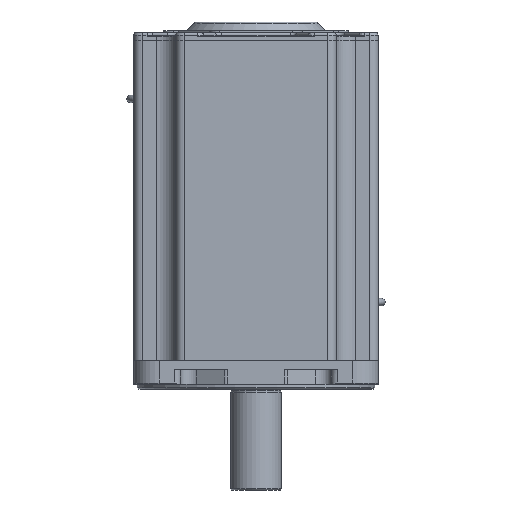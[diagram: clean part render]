
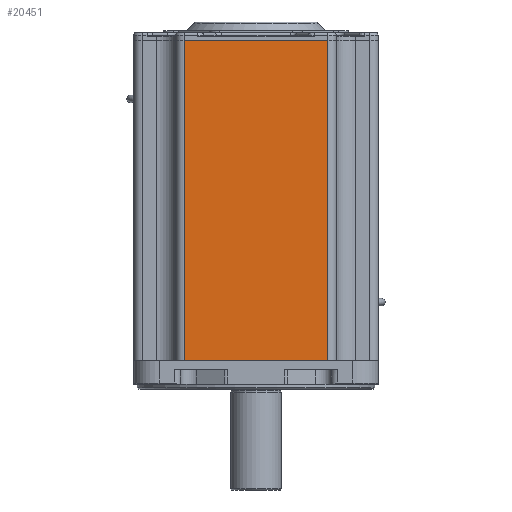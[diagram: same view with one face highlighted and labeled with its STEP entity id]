
A CAD part, front view. The second image highlights one B-rep face of the part: STEP entity #20451.
In plain terms, the highlighted planar face has unit normal (0, -1, 0).
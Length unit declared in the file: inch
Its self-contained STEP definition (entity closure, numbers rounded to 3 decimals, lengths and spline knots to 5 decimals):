
#5605=CARTESIAN_POINT('',(2.14,-3.64,9.91));
#5606=VERTEX_POINT('',#5605);
#5818=CARTESIAN_POINT('',(-2.14,-3.64,9.91));
#5819=VERTEX_POINT('',#5818);
#5826=CARTESIAN_POINT('',(-2.14,-3.64,9.91));
#5827=DIRECTION('',(1.0,0.0,0.0));
#5828=VECTOR('',#5827,4.28);
#5829=LINE('',#5826,#5828);
#5830=EDGE_CURVE('',#5819,#5606,#5829,.T.);
#7876=CARTESIAN_POINT('',(-2.14,-3.64,0.35));
#7877=VERTEX_POINT('',#7876);
#7885=CARTESIAN_POINT('',(-2.14,-3.64,0.35));
#7886=DIRECTION('',(0.0,0.0,1.0));
#7887=VECTOR('',#7886,9.56);
#7888=LINE('',#7885,#7887);
#7889=EDGE_CURVE('',#7877,#5819,#7888,.T.);
#20416=CARTESIAN_POINT('',(2.14,-3.64,0.35));
#20417=VERTEX_POINT('',#20416);
#20418=CARTESIAN_POINT('',(2.14,-3.64,9.91));
#20419=DIRECTION('',(0.0,0.0,-1.0));
#20420=VECTOR('',#20419,9.56);
#20421=LINE('',#20418,#20420);
#20422=EDGE_CURVE('',#5606,#20417,#20421,.T.);
#20435=CARTESIAN_POINT('',(3.64,-3.64,0.0));
#20436=DIRECTION('',(0.0,-1.0,0.0));
#20437=DIRECTION('',(0.0,0.0,-1.0));
#20438=AXIS2_PLACEMENT_3D('',#20435,#20436,#20437);
#20439=PLANE('',#20438);
#20440=ORIENTED_EDGE('',*,*,#5830,.F.);
#20441=ORIENTED_EDGE('',*,*,#7889,.F.);
#20442=CARTESIAN_POINT('',(2.14,-3.64,0.35));
#20443=DIRECTION('',(-1.0,0.0,0.0));
#20444=VECTOR('',#20443,4.28);
#20445=LINE('',#20442,#20444);
#20446=EDGE_CURVE('',#20417,#7877,#20445,.T.);
#20447=ORIENTED_EDGE('',*,*,#20446,.F.);
#20448=ORIENTED_EDGE('',*,*,#20422,.F.);
#20449=EDGE_LOOP('',(#20440,#20441,#20447,#20448));
#20450=FACE_OUTER_BOUND('',#20449,.T.);
#20451=ADVANCED_FACE('',(#20450),#20439,.T.);
